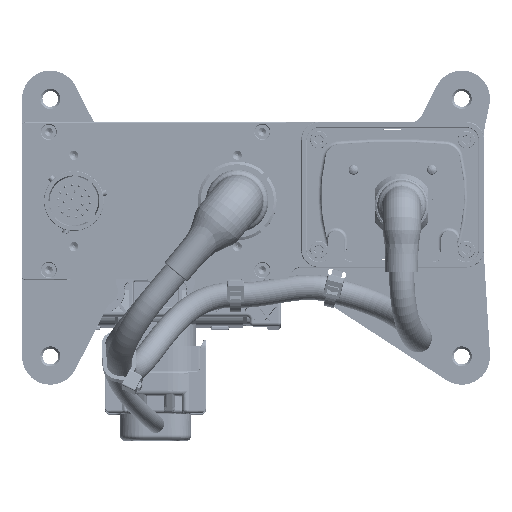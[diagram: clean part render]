
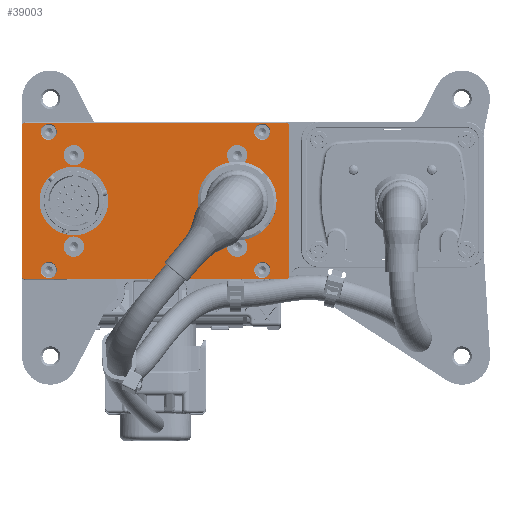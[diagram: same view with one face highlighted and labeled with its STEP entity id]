
A CAD part, left-side view. The second image highlights one B-rep face of the part: STEP entity #39003.
In plain terms, the highlighted planar face has unit normal (-1, 0, 0).
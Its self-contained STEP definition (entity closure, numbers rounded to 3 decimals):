
#39003=ADVANCED_FACE('',(#46584,#46585,#46586,#46587,#46588,#46589,#46590,
#46591,#46592,#46593,#46594),#44515,.T.);
#44515=PLANE('',#122402);
#46584=FACE_BOUND('',#47771,.T.);
#46585=FACE_BOUND('',#47772,.T.);
#46586=FACE_BOUND('',#47773,.T.);
#46587=FACE_BOUND('',#47774,.T.);
#46588=FACE_BOUND('',#47775,.T.);
#46589=FACE_BOUND('',#47776,.T.);
#46590=FACE_BOUND('',#47777,.T.);
#46591=FACE_BOUND('',#47778,.T.);
#46592=FACE_BOUND('',#47779,.T.);
#46593=FACE_BOUND('',#47780,.T.);
#46594=FACE_BOUND('',#47781,.T.);
#47771=EDGE_LOOP('',(#68322));
#47772=EDGE_LOOP('',(#68323));
#47773=EDGE_LOOP('',(#68324));
#47774=EDGE_LOOP('',(#68325));
#47775=EDGE_LOOP('',(#68326,#68327,#68328,#68329,#68330,#68331,#68332,#68333));
#47776=EDGE_LOOP('',(#68334));
#47777=EDGE_LOOP('',(#68335));
#47778=EDGE_LOOP('',(#68336));
#47779=EDGE_LOOP('',(#68337));
#47780=EDGE_LOOP('',(#68338));
#47781=EDGE_LOOP('',(#68339));
#53937=LINE('',#164937,#60710);
#53938=LINE('',#164942,#60711);
#53939=LINE('',#164946,#60712);
#53940=LINE('',#164950,#60713);
#60710=VECTOR('',#132738,1.);
#60711=VECTOR('',#132741,1.);
#60712=VECTOR('',#132744,1.);
#60713=VECTOR('',#132747,1.);
#68322=ORIENTED_EDGE('',*,*,#104569,.F.);
#68323=ORIENTED_EDGE('',*,*,#104568,.F.);
#68324=ORIENTED_EDGE('',*,*,#104567,.F.);
#68325=ORIENTED_EDGE('',*,*,#104566,.F.);
#68326=ORIENTED_EDGE('',*,*,#104575,.T.);
#68327=ORIENTED_EDGE('',*,*,#104576,.T.);
#68328=ORIENTED_EDGE('',*,*,#104577,.T.);
#68329=ORIENTED_EDGE('',*,*,#104578,.T.);
#68330=ORIENTED_EDGE('',*,*,#104579,.T.);
#68331=ORIENTED_EDGE('',*,*,#104580,.T.);
#68332=ORIENTED_EDGE('',*,*,#104581,.T.);
#68333=ORIENTED_EDGE('',*,*,#104582,.T.);
#68334=ORIENTED_EDGE('',*,*,#104565,.T.);
#68335=ORIENTED_EDGE('',*,*,#104564,.T.);
#68336=ORIENTED_EDGE('',*,*,#104563,.T.);
#68337=ORIENTED_EDGE('',*,*,#104562,.T.);
#68338=ORIENTED_EDGE('',*,*,#104561,.F.);
#68339=ORIENTED_EDGE('',*,*,#104560,.T.);
#95706=VERTEX_POINT('',#164895);
#95707=VERTEX_POINT('',#164898);
#95708=VERTEX_POINT('',#164901);
#95709=VERTEX_POINT('',#164904);
#95710=VERTEX_POINT('',#164907);
#95711=VERTEX_POINT('',#164910);
#95712=VERTEX_POINT('',#164913);
#95713=VERTEX_POINT('',#164916);
#95714=VERTEX_POINT('',#164919);
#95715=VERTEX_POINT('',#164922);
#95721=VERTEX_POINT('',#164938);
#95722=VERTEX_POINT('',#164939);
#95723=VERTEX_POINT('',#164941);
#95724=VERTEX_POINT('',#164943);
#95725=VERTEX_POINT('',#164945);
#95726=VERTEX_POINT('',#164947);
#95727=VERTEX_POINT('',#164949);
#95728=VERTEX_POINT('',#164951);
#104560=EDGE_CURVE('',#95706,#95706,#118133,.T.);
#104561=EDGE_CURVE('',#95707,#95707,#118134,.T.);
#104562=EDGE_CURVE('',#95708,#95708,#118135,.T.);
#104563=EDGE_CURVE('',#95709,#95709,#118136,.T.);
#104564=EDGE_CURVE('',#95710,#95710,#118137,.T.);
#104565=EDGE_CURVE('',#95711,#95711,#118138,.T.);
#104566=EDGE_CURVE('',#95712,#95712,#118139,.T.);
#104567=EDGE_CURVE('',#95713,#95713,#118140,.T.);
#104568=EDGE_CURVE('',#95714,#95714,#118141,.T.);
#104569=EDGE_CURVE('',#95715,#95715,#118142,.T.);
#104575=EDGE_CURVE('',#95721,#95722,#53937,.T.);
#104576=EDGE_CURVE('',#95722,#95723,#118145,.T.);
#104577=EDGE_CURVE('',#95723,#95724,#53938,.T.);
#104578=EDGE_CURVE('',#95724,#95725,#118146,.T.);
#104579=EDGE_CURVE('',#95725,#95726,#53939,.T.);
#104580=EDGE_CURVE('',#95726,#95727,#118147,.T.);
#104581=EDGE_CURVE('',#95727,#95728,#53940,.T.);
#104582=EDGE_CURVE('',#95728,#95721,#118148,.T.);
#118133=CIRCLE('',#122373,10.95);
#118134=CIRCLE('',#122375,10.95);
#118135=CIRCLE('',#122377,2.567);
#118136=CIRCLE('',#122379,2.567);
#118137=CIRCLE('',#122381,2.567);
#118138=CIRCLE('',#122383,2.567);
#118139=CIRCLE('',#122385,3.236);
#118140=CIRCLE('',#122387,3.236);
#118141=CIRCLE('',#122389,3.236);
#118142=CIRCLE('',#122391,3.236);
#118145=CIRCLE('',#122398,0.95);
#118146=CIRCLE('',#122399,0.95);
#118147=CIRCLE('',#122400,0.95);
#118148=CIRCLE('',#122401,0.95);
#122373=AXIS2_PLACEMENT_3D('',#164894,#132685,#132686);
#122375=AXIS2_PLACEMENT_3D('',#164897,#132689,#132690);
#122377=AXIS2_PLACEMENT_3D('',#164900,#132693,#132694);
#122379=AXIS2_PLACEMENT_3D('',#164903,#132697,#132698);
#122381=AXIS2_PLACEMENT_3D('',#164906,#132701,#132702);
#122383=AXIS2_PLACEMENT_3D('',#164909,#132705,#132706);
#122385=AXIS2_PLACEMENT_3D('',#164912,#132709,#132710);
#122387=AXIS2_PLACEMENT_3D('',#164915,#132713,#132714);
#122389=AXIS2_PLACEMENT_3D('',#164918,#132717,#132718);
#122391=AXIS2_PLACEMENT_3D('',#164921,#132721,#132722);
#122398=AXIS2_PLACEMENT_3D('',#164940,#132739,#132740);
#122399=AXIS2_PLACEMENT_3D('',#164944,#132742,#132743);
#122400=AXIS2_PLACEMENT_3D('',#164948,#132745,#132746);
#122401=AXIS2_PLACEMENT_3D('',#164952,#132748,#132749);
#122402=AXIS2_PLACEMENT_3D('',#164953,#132750,#132751);
#132685=DIRECTION('',(1.,0.,0.));
#132686=DIRECTION('',(0.,1.,0.));
#132689=DIRECTION('',(-1.,0.,0.));
#132690=DIRECTION('',(0.,-1.,0.));
#132693=DIRECTION('',(1.,0.,0.));
#132694=DIRECTION('',(0.,0.,1.));
#132697=DIRECTION('',(1.,0.,0.));
#132698=DIRECTION('',(0.,0.,1.));
#132701=DIRECTION('',(1.,0.,0.));
#132702=DIRECTION('',(0.,0.,1.));
#132705=DIRECTION('',(1.,0.,0.));
#132706=DIRECTION('',(0.,0.,1.));
#132709=DIRECTION('',(-1.,0.,0.));
#132710=DIRECTION('',(0.,0.,1.));
#132713=DIRECTION('',(-1.,0.,0.));
#132714=DIRECTION('',(0.,0.,1.));
#132717=DIRECTION('',(-1.,0.,0.));
#132718=DIRECTION('',(0.,0.,1.));
#132721=DIRECTION('',(-1.,0.,0.));
#132722=DIRECTION('',(0.,0.,1.));
#132738=DIRECTION('',(0.,0.,1.));
#132739=DIRECTION('',(-1.,0.,0.));
#132740=DIRECTION('',(0.,0.,1.));
#132741=DIRECTION('',(0.,1.,0.));
#132742=DIRECTION('',(-1.,0.,0.));
#132743=DIRECTION('',(0.,0.,1.));
#132744=DIRECTION('',(0.,0.,-1.));
#132745=DIRECTION('',(-1.,0.,0.));
#132746=DIRECTION('',(0.,0.,1.));
#132747=DIRECTION('',(0.,-1.,0.));
#132748=DIRECTION('',(-1.,0.,0.));
#132749=DIRECTION('',(0.,0.,1.));
#132750=DIRECTION('',(-1.,0.,0.));
#132751=DIRECTION('',(0.,-1.,0.));
#164894=CARTESIAN_POINT('',(-32.,58.,8.5));
#164895=CARTESIAN_POINT('',(-32.,68.95,8.5));
#164897=CARTESIAN_POINT('',(-32.,6.,8.5));
#164898=CARTESIAN_POINT('',(-32.,-4.95,8.5));
#164900=CARTESIAN_POINT('',(-32.,66.,30.5));
#164901=CARTESIAN_POINT('',(-32.,66.,33.067));
#164903=CARTESIAN_POINT('',(-32.,66.,-13.5));
#164904=CARTESIAN_POINT('',(-32.,66.,-10.933));
#164906=CARTESIAN_POINT('',(-32.,-2.,30.5));
#164907=CARTESIAN_POINT('',(-32.,-2.,33.067));
#164909=CARTESIAN_POINT('',(-32.,-2.,-13.5));
#164910=CARTESIAN_POINT('',(-32.,-2.,-10.933));
#164912=CARTESIAN_POINT('',(-32.,6.,-6.05));
#164913=CARTESIAN_POINT('',(-32.,6.,-2.814));
#164915=CARTESIAN_POINT('',(-32.,6.,23.05));
#164916=CARTESIAN_POINT('',(-32.,6.,26.286));
#164918=CARTESIAN_POINT('',(-32.,58.,23.05));
#164919=CARTESIAN_POINT('',(-32.,58.,26.286));
#164921=CARTESIAN_POINT('',(-32.,58.,-6.05));
#164922=CARTESIAN_POINT('',(-32.,58.,-2.814));
#164937=CARTESIAN_POINT('',(-32.,-10.45,30.5));
#164938=CARTESIAN_POINT('',(-32.,-10.45,-15.5));
#164939=CARTESIAN_POINT('',(-32.,-10.45,32.5));
#164940=CARTESIAN_POINT('',(-32.,-9.5,32.5));
#164941=CARTESIAN_POINT('',(-32.,-9.5,33.45));
#164942=CARTESIAN_POINT('',(-32.,-2.,33.45));
#164943=CARTESIAN_POINT('',(-32.,73.5,33.45));
#164944=CARTESIAN_POINT('',(-32.,73.5,32.5));
#164945=CARTESIAN_POINT('',(-32.,74.45,32.5));
#164946=CARTESIAN_POINT('',(-32.,74.45,30.5));
#164947=CARTESIAN_POINT('',(-32.,74.45,-15.5));
#164948=CARTESIAN_POINT('',(-32.,73.5,-15.5));
#164949=CARTESIAN_POINT('',(-32.,73.5,-16.45));
#164950=CARTESIAN_POINT('',(-32.,-2.,-16.45));
#164951=CARTESIAN_POINT('',(-32.,-9.5,-16.45));
#164952=CARTESIAN_POINT('',(-32.,-9.5,-15.5));
#164953=CARTESIAN_POINT('',(-32.,-2.,30.5));
